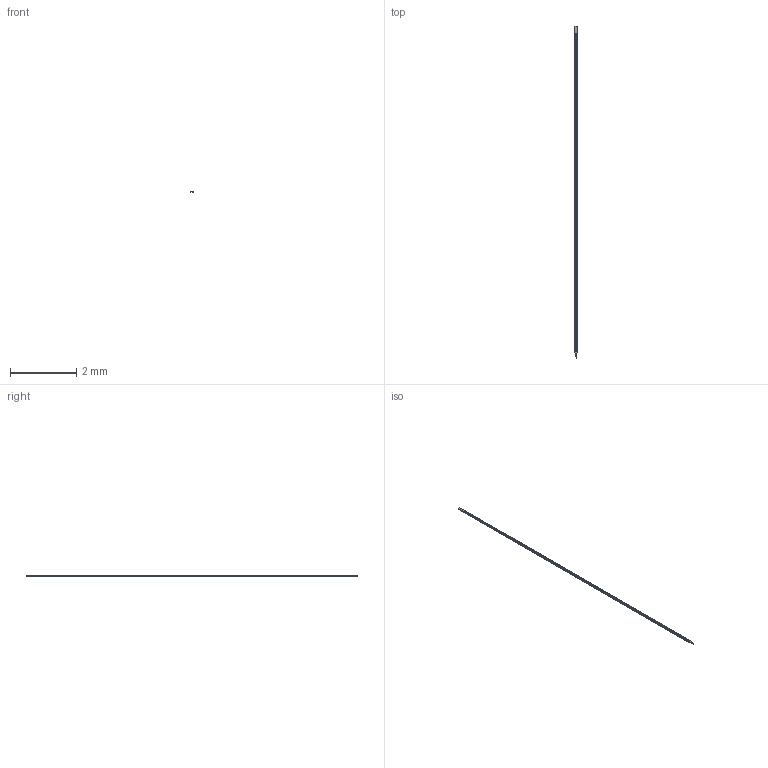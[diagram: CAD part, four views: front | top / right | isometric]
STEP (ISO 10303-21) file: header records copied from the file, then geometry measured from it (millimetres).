
FILE_DESCRIPTION(('Open CASCADE Model'),'2;1');
FILE_NAME('Open CASCADE Shape Model','2026-10-25T16:03:37',('Author'),( 'Open CASCADE'),'Open CASCADE STEP processor 7.9','Open CASCADE 7.9' ,'Unknown');
FILE_SCHEMA(('AUTOMOTIVE_DESIGN { 1 0 10303 214 1 1 1 1 }'));
Length unit declared in the file: millimetre
Products named in the file (3): NPX1_nominal_shank_with_contact_footprints; Silicon_shank_10mm_70um_24um; Site_000
Assembly tree (961 placements, depth 2):
  NPX1_nominal_shank_with_contact_footprints
    Silicon_shank_10mm_70um_24um
    Site_000  x960
Bounding box: 0.07 x 10 x 0.02 mm (x, y, z)
Volume: 0 mm3; surface area: 2.2 mm2
Topology: 961 solids, 961 shells, 5767 faces, 11535 edges, 7690 vertices
Faces by surface type: plane 5767
Entity records: 8426 total; most frequent: DIRECTION 2031, CARTESIAN_POINT 1074, AXIS2_PLACEMENT_3D 975, PRODUCT_DEFINITION_SHAPE 964, CONTEXT_DEPENDENT_SHAPE_REPRESENTATION 961, ITEM_DEFINED_TRANSFORMATION 961, NEXT_ASSEMBLY_USAGE_OCCURRENCE 961, LINE 81
